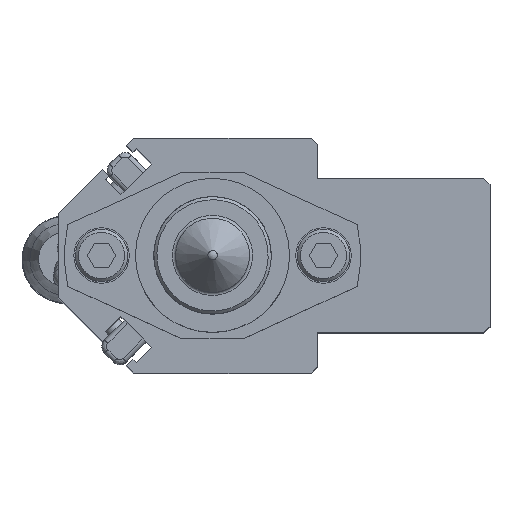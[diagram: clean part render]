
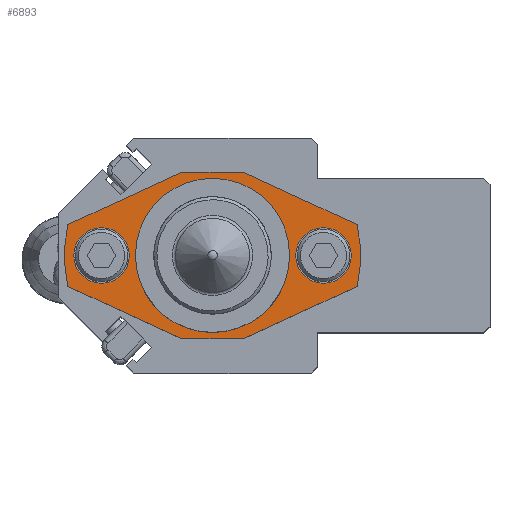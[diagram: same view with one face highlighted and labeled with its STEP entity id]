
A CAD part, top view. The second image highlights one B-rep face of the part: STEP entity #6893.
In plain terms, the highlighted planar face has unit normal (0, 0, 1).
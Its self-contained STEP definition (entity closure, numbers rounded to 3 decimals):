
#366=FACE_BOUND('',#1061,.T.);
#367=FACE_BOUND('',#1062,.T.);
#368=FACE_BOUND('',#1063,.T.);
#448=PLANE('',#7653);
#666=FACE_OUTER_BOUND('',#1060,.T.);
#1060=EDGE_LOOP('',(#4809,#4810,#4811,#4812,#4813,#4814,#4815,#4816));
#1061=EDGE_LOOP('',(#4817));
#1062=EDGE_LOOP('',(#4818));
#1063=EDGE_LOOP('',(#4819));
#1526=LINE('',#10678,#2091);
#1529=LINE('',#10684,#2094);
#1530=LINE('',#10685,#2095);
#1531=LINE('',#10687,#2096);
#1532=LINE('',#10689,#2097);
#1533=LINE('',#10690,#2098);
#2091=VECTOR('',#8521,10.);
#2094=VECTOR('',#8526,10.);
#2095=VECTOR('',#8527,10.);
#2096=VECTOR('',#8528,10.);
#2097=VECTOR('',#8529,10.);
#2098=VECTOR('',#8530,10.);
#2640=CIRCLE('',#7648,23.999);
#2642=CIRCLE('',#7651,23.999);
#2643=CIRCLE('',#7654,12.5);
#2644=CIRCLE('',#7655,2.75);
#2645=CIRCLE('',#7656,2.75);
#3050=VERTEX_POINT('',#10662);
#3051=VERTEX_POINT('',#10664);
#3054=VERTEX_POINT('',#10671);
#3055=VERTEX_POINT('',#10673);
#3056=VERTEX_POINT('',#10677);
#3058=VERTEX_POINT('',#10683);
#3059=VERTEX_POINT('',#10686);
#3060=VERTEX_POINT('',#10688);
#3061=VERTEX_POINT('',#10691);
#3062=VERTEX_POINT('',#10693);
#3063=VERTEX_POINT('',#10695);
#3746=EDGE_CURVE('',#3051,#3050,#2640,.T.);
#3750=EDGE_CURVE('',#3055,#3054,#2642,.T.);
#3752=EDGE_CURVE('',#3056,#3055,#1526,.T.);
#3755=EDGE_CURVE('',#3050,#3058,#1529,.T.);
#3756=EDGE_CURVE('',#3056,#3058,#1530,.T.);
#3757=EDGE_CURVE('',#3054,#3059,#1531,.T.);
#3758=EDGE_CURVE('',#3060,#3059,#1532,.T.);
#3759=EDGE_CURVE('',#3060,#3051,#1533,.T.);
#3760=EDGE_CURVE('',#3061,#3061,#2643,.T.);
#3761=EDGE_CURVE('',#3062,#3062,#2644,.T.);
#3762=EDGE_CURVE('',#3063,#3063,#2645,.T.);
#4809=ORIENTED_EDGE('',*,*,#3746,.T.);
#4810=ORIENTED_EDGE('',*,*,#3755,.T.);
#4811=ORIENTED_EDGE('',*,*,#3756,.F.);
#4812=ORIENTED_EDGE('',*,*,#3752,.T.);
#4813=ORIENTED_EDGE('',*,*,#3750,.T.);
#4814=ORIENTED_EDGE('',*,*,#3757,.T.);
#4815=ORIENTED_EDGE('',*,*,#3758,.F.);
#4816=ORIENTED_EDGE('',*,*,#3759,.T.);
#4817=ORIENTED_EDGE('',*,*,#3760,.F.);
#4818=ORIENTED_EDGE('',*,*,#3761,.F.);
#4819=ORIENTED_EDGE('',*,*,#3762,.F.);
#6893=ADVANCED_FACE('',(#666,#366,#367,#368),#448,.F.);
#7648=AXIS2_PLACEMENT_3D('',#10665,#8508,#8509);
#7651=AXIS2_PLACEMENT_3D('',#10674,#8516,#8517);
#7653=AXIS2_PLACEMENT_3D('',#10682,#8524,#8525);
#7654=AXIS2_PLACEMENT_3D('',#10692,#8531,#8532);
#7655=AXIS2_PLACEMENT_3D('',#10694,#8533,#8534);
#7656=AXIS2_PLACEMENT_3D('',#10696,#8535,#8536);
#8508=DIRECTION('center_axis',(0.,0.,1.));
#8509=DIRECTION('ref_axis',(-0.978,0.208,0.));
#8516=DIRECTION('center_axis',(0.,0.,1.));
#8517=DIRECTION('ref_axis',(0.978,-0.208,0.));
#8521=DIRECTION('',(-0.908,-0.418,0.));
#8524=DIRECTION('center_axis',(0.,0.,-1.));
#8525=DIRECTION('ref_axis',(-1.,0.,0.));
#8526=DIRECTION('',(-0.908,0.418,0.));
#8527=DIRECTION('',(1.,0.,0.));
#8528=DIRECTION('',(0.908,-0.418,0.));
#8529=DIRECTION('',(-1.,0.,0.));
#8530=DIRECTION('',(0.908,0.418,0.));
#8531=DIRECTION('center_axis',(0.,0.,1.));
#8532=DIRECTION('ref_axis',(-1.,0.,0.));
#8533=DIRECTION('center_axis',(0.,0.,1.));
#8534=DIRECTION('ref_axis',(1.,0.,0.));
#8535=DIRECTION('center_axis',(0.,0.,1.));
#8536=DIRECTION('ref_axis',(1.,0.,0.));
#10662=CARTESIAN_POINT('',(23.473,4.998,6.));
#10664=CARTESIAN_POINT('',(23.473,-4.998,6.));
#10665=CARTESIAN_POINT('Origin',(0.,0.,6.));
#10671=CARTESIAN_POINT('',(-23.473,-4.998,6.));
#10673=CARTESIAN_POINT('',(-23.473,4.998,6.));
#10674=CARTESIAN_POINT('Origin',(0.,0.,6.));
#10677=CARTESIAN_POINT('',(-5.,13.5,6.));
#10678=CARTESIAN_POINT('',(-15.001,8.897,6.));
#10682=CARTESIAN_POINT('Origin',(0.,0.,6.));
#10683=CARTESIAN_POINT('',(5.,13.5,6.));
#10684=CARTESIAN_POINT('',(15.001,8.897,6.));
#10685=CARTESIAN_POINT('',(12.,13.5,6.));
#10686=CARTESIAN_POINT('',(-5.,-13.5,6.));
#10687=CARTESIAN_POINT('',(-15.001,-8.897,6.));
#10688=CARTESIAN_POINT('',(5.,-13.5,6.));
#10689=CARTESIAN_POINT('',(-12.,-13.5,6.));
#10690=CARTESIAN_POINT('',(15.001,-8.897,6.));
#10691=CARTESIAN_POINT('',(12.5,0.,6.));
#10692=CARTESIAN_POINT('Origin',(0.,0.,6.));
#10693=CARTESIAN_POINT('',(15.25,0.,6.));
#10694=CARTESIAN_POINT('Origin',(18.,0.,6.));
#10695=CARTESIAN_POINT('',(-20.75,0.,6.));
#10696=CARTESIAN_POINT('Origin',(-18.,0.,6.));
